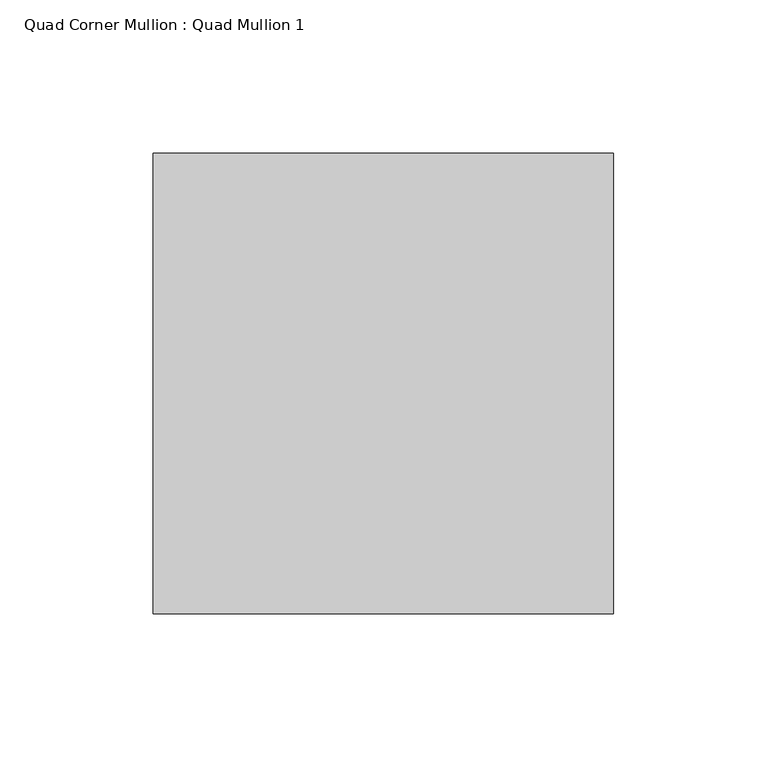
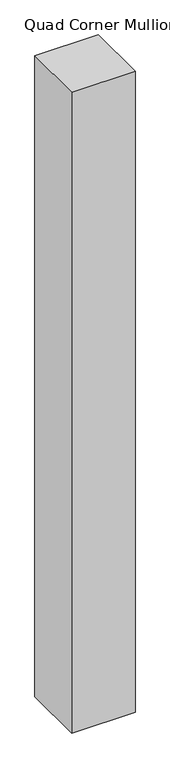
"""IFC4 building model written with IfcOpenShell, lengths in millimetres: member geometry, Quad Corner Mullion : Quad Mullion 1."""

from ifc_helpers import new_model, si_unit, frame, origin, place, context, project, spatial, polyline, outline, extrude, source, transform, mapped, element, save


def quad_corner_mullion_quad_mullion_1_7d99ceda(model_context):
    return source(origin(), model_context, "Body", "SweptSolid", [
        extrude(outline(polyline([(75.0, -75.0), (-75.0, -75.0), (-75.0, 75.0), (75.0, 75.0), (75.0, -75.0)])), frame((0.0, 0.0, -1600.0), z_axis=(0.0, 0.0, 1.0), x_axis=(1.0, 0.0, 0.0)), (0.0, 0.0, 1.0), 1600.0),
    ])


if __name__ == "__main__":
    model = new_model("IFC4")
    model_context = context("Model", 3, world=origin())
    ifc_project = project(units=[si_unit("LENGTHUNIT", "METRE", prefix="MILLI")], contexts=[model_context])
    site = spatial("IfcSite", under=ifc_project)
    building = spatial("IfcBuilding", under=site)
    placement = place(None, origin())
    quad_corner_mullion_quad_mullion_1_shape = quad_corner_mullion_quad_mullion_1_7d99ceda(model_context)
    element("IfcMember", 1, ObjectType="Quad Corner Mullion : Quad Mullion 1", at=placement, inside=building, context=model_context, shape_type="MappedRepresentation", body=[
        mapped(quad_corner_mullion_quad_mullion_1_shape, transform((0.0, 0.0, 0.0), x_axis=(1.0, 0.0, 0.0), y_axis=(0.0, 1.0, 0.0), z_axis=(0.0, 0.0, 1.0))),
    ])
    save(model, "model.ifc")
